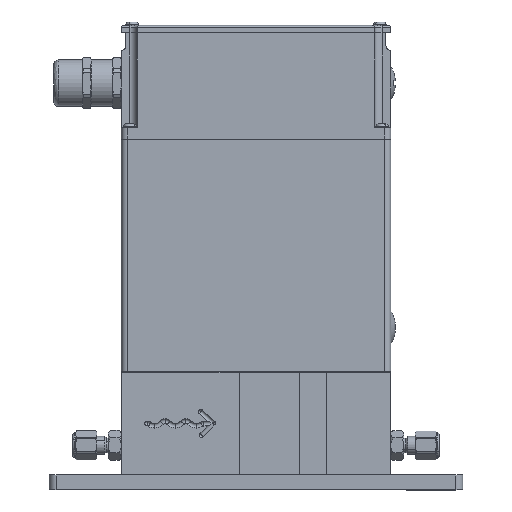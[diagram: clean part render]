
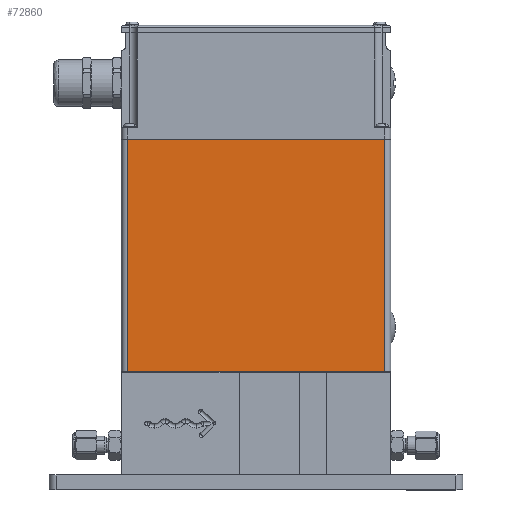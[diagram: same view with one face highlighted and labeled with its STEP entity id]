
A CAD part, top view. The second image highlights one B-rep face of the part: STEP entity #72860.
In plain terms, the highlighted planar face has unit normal (0, 0, 1).
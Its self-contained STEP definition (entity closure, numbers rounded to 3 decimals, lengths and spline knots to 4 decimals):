
#4699 = VERTEX_POINT ( 'NONE', #58366 ) ;
#5914 = DIRECTION ( 'NONE',  ( 0., -1., 0. ) ) ;
#9224 = EDGE_CURVE ( 'NONE', #21156, #4699, #53275, .T. ) ;
#11905 = ORIENTED_EDGE ( 'NONE', *, *, #40169, .F. ) ;
#12436 = DIRECTION ( 'NONE',  ( 0., 0., -1. ) ) ;
#12971 = LINE ( 'NONE', #18507, #14382 ) ;
#14382 = VECTOR ( 'NONE', #61241, 39.3701 ) ;
#18372 = DIRECTION ( 'NONE',  ( 0., -1., 0. ) ) ;
#18507 = CARTESIAN_POINT ( 'NONE',  ( 2.18, 0., 0.7525 ) ) ;
#18905 = FACE_OUTER_BOUND ( 'NONE', #62993, .T. ) ;
#20744 = LINE ( 'NONE', #63482, #79470 ) ;
#21093 = VECTOR ( 'NONE', #5914, 39.3701 ) ;
#21156 = VERTEX_POINT ( 'NONE', #37982 ) ;
#26331 = ORIENTED_EDGE ( 'NONE', *, *, #40883, .T. ) ;
#29544 = AXIS2_PLACEMENT_3D ( 'NONE', #59802, #12436, #87836 ) ;
#33775 = EDGE_CURVE ( 'NONE', #47662, #82569, #61566, .T. ) ;
#37982 = CARTESIAN_POINT ( 'NONE',  ( 2.18, 3.935, 0.7525 ) ) ;
#39125 = VECTOR ( 'NONE', #18372, 39.3701 ) ;
#40169 = EDGE_CURVE ( 'NONE', #47662, #21156, #20744, .T. ) ;
#40883 = EDGE_CURVE ( 'NONE', #82569, #4699, #12971, .T. ) ;
#42446 = CARTESIAN_POINT ( 'NONE',  ( -2.18, 0., 0.7525 ) ) ;
#47662 = VERTEX_POINT ( 'NONE', #85195 ) ;
#48767 = DIRECTION ( 'NONE',  ( 1., 0., 0. ) ) ;
#52445 = PLANE ( 'NONE',  #29544 ) ;
#53275 = LINE ( 'NONE', #81315, #21093 ) ;
#56943 = ORIENTED_EDGE ( 'NONE', *, *, #9224, .F. ) ;
#58366 = CARTESIAN_POINT ( 'NONE',  ( 2.18, 0., 0.7525 ) ) ;
#59802 = CARTESIAN_POINT ( 'NONE',  ( 2.18, 3.935, 0.7525 ) ) ;
#60665 = ORIENTED_EDGE ( 'NONE', *, *, #33775, .T. ) ;
#61241 = DIRECTION ( 'NONE',  ( 1., 0., 0. ) ) ;
#61566 = LINE ( 'NONE', #81342, #39125 ) ;
#62993 = EDGE_LOOP ( 'NONE', ( #26331, #56943, #11905, #60665 ) ) ;
#63482 = CARTESIAN_POINT ( 'NONE',  ( 2.18, 3.935, 0.7525 ) ) ;
#72860 = ADVANCED_FACE ( 'NONE', ( #18905 ), #52445, .F. ) ;
#79470 = VECTOR ( 'NONE', #48767, 39.3701 ) ;
#81315 = CARTESIAN_POINT ( 'NONE',  ( 2.18, 3.935, 0.7525 ) ) ;
#81342 = CARTESIAN_POINT ( 'NONE',  ( -2.18, 3.935, 0.7525 ) ) ;
#82569 = VERTEX_POINT ( 'NONE', #42446 ) ;
#85195 = CARTESIAN_POINT ( 'NONE',  ( -2.18, 3.935, 0.7525 ) ) ;
#87836 = DIRECTION ( 'NONE',  ( -1., 0., 0. ) ) ;
